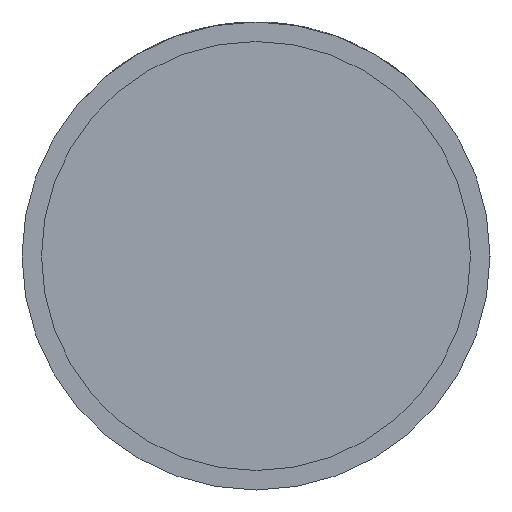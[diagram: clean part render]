
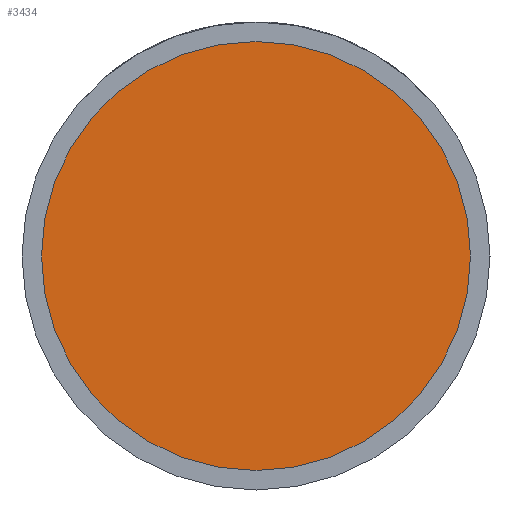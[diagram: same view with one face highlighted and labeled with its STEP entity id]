
A CAD part, front view. The second image highlights one B-rep face of the part: STEP entity #3434.
In plain terms, the highlighted planar face has unit normal (0, -1, 0).
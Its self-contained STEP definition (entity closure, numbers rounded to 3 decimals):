
#64 = VERTEX_POINT ( 'NONE', #1755 ) ;
#424 = PLANE ( 'NONE',  #525 ) ;
#522 = AXIS2_PLACEMENT_3D ( 'NONE', #916, #2258, #3586 ) ;
#525 = AXIS2_PLACEMENT_3D ( 'NONE', #2654, #3331, #1413 ) ;
#615 = ORIENTED_EDGE ( 'NONE', *, *, #2167, .T. ) ;
#722 = CIRCLE ( 'NONE', #2027, 22. ) ;
#748 = FACE_OUTER_BOUND ( 'NONE', #1909, .T. ) ;
#916 = CARTESIAN_POINT ( 'NONE',  ( 0., -17.5, 0. ) ) ;
#1291 = DIRECTION ( 'NONE',  ( 1., 0., 0. ) ) ;
#1413 = DIRECTION ( 'NONE',  ( 1., 0., 0. ) ) ;
#1755 = CARTESIAN_POINT ( 'NONE',  ( -22., -17.5, 0. ) ) ;
#1909 = EDGE_LOOP ( 'NONE', ( #4140, #615 ) ) ;
#2027 = AXIS2_PLACEMENT_3D ( 'NONE', #3876, #2883, #1291 ) ;
#2042 = VERTEX_POINT ( 'NONE', #3035 ) ;
#2167 = EDGE_CURVE ( 'NONE', #64, #2042, #722, .T. ) ;
#2258 = DIRECTION ( 'NONE',  ( 0., -1., 0. ) ) ;
#2507 = EDGE_CURVE ( 'NONE', #2042, #64, #2947, .T. ) ;
#2654 = CARTESIAN_POINT ( 'NONE',  ( 22., -17.5, 0. ) ) ;
#2883 = DIRECTION ( 'NONE',  ( 0., -1., 0. ) ) ;
#2947 = CIRCLE ( 'NONE', #522, 22. ) ;
#3035 = CARTESIAN_POINT ( 'NONE',  ( 22., -17.5, 0. ) ) ;
#3331 = DIRECTION ( 'NONE',  ( 0., -1., 0. ) ) ;
#3434 = ADVANCED_FACE ( 'NONE', ( #748 ), #424, .T. ) ;
#3586 = DIRECTION ( 'NONE',  ( 1., 0., 0. ) ) ;
#3876 = CARTESIAN_POINT ( 'NONE',  ( 0., -17.5, 0. ) ) ;
#4140 = ORIENTED_EDGE ( 'NONE', *, *, #2507, .T. ) ;
